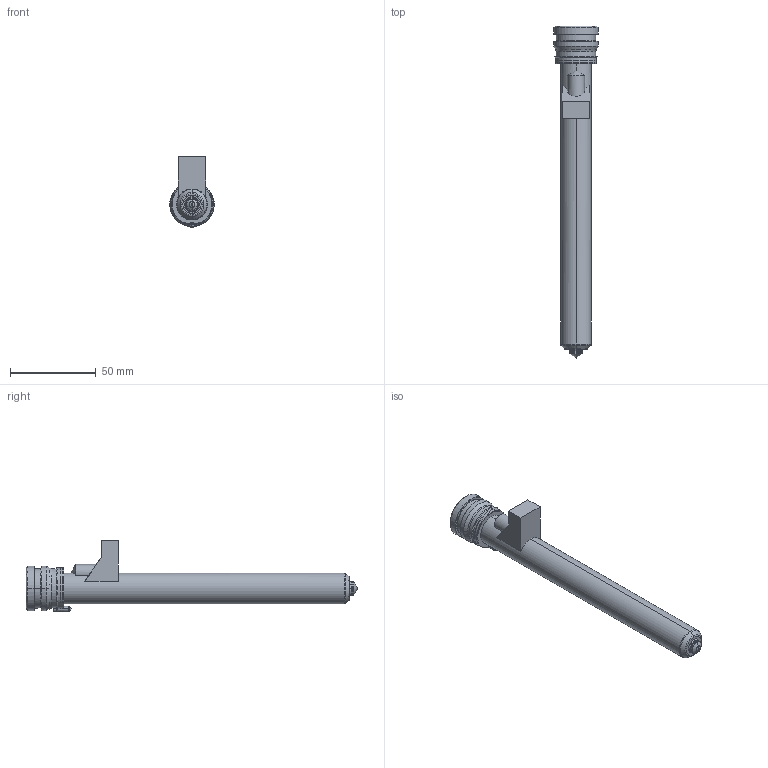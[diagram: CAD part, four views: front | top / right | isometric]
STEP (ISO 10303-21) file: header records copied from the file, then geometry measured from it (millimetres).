
FILE_DESCRIPTION((''),'2;1');
FILE_NAME('MPN-08-24-VSA8-176-M','2026-02-05T13:35:05',('UPTIO'),('Thermoplay S.p.A.'),'CREO PARAMETRIC BY PTC INC, 2023494','CREO PARAMETRIC BY PTC INC, 2023494','');
FILE_SCHEMA(('CONFIG_CONTROL_DESIGN','SHAPE_APPEARANCE_LAYERS_GROUPS'));
Length unit declared in the file: millimetre
Products named in the file (1): MPN-08-24-VSA8-176-M
Bounding box: 26 x 194 x 41.5 mm (x, y, z)
Volume: 36419.6 mm3; surface area: 48820.6 mm2
Topology: 2 solids, 3 shells, 527 faces, 1374 edges, 846 vertices
Faces by surface type: cylinder 176, plane 143, bspline 75, torus 60, cone 58, sphere 9, extrusion 6
Entity records: 27273 total; most frequent: CARTESIAN_POINT 11794, ORIENTED_EDGE 2730, DIRECTION 2497, EDGE_CURVE 1365, AXIS2_PLACEMENT_3D 975, VERTEX_POINT 846, EDGE_LOOP 557, VECTOR 547
